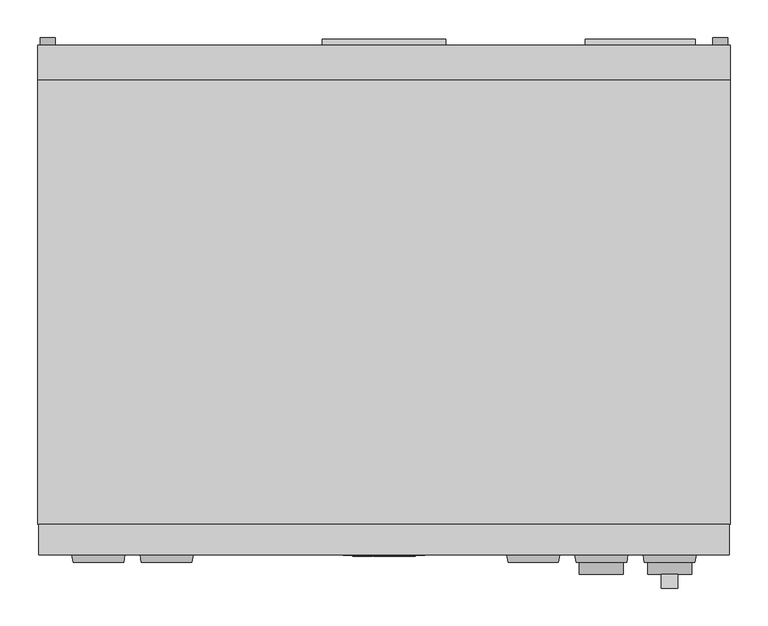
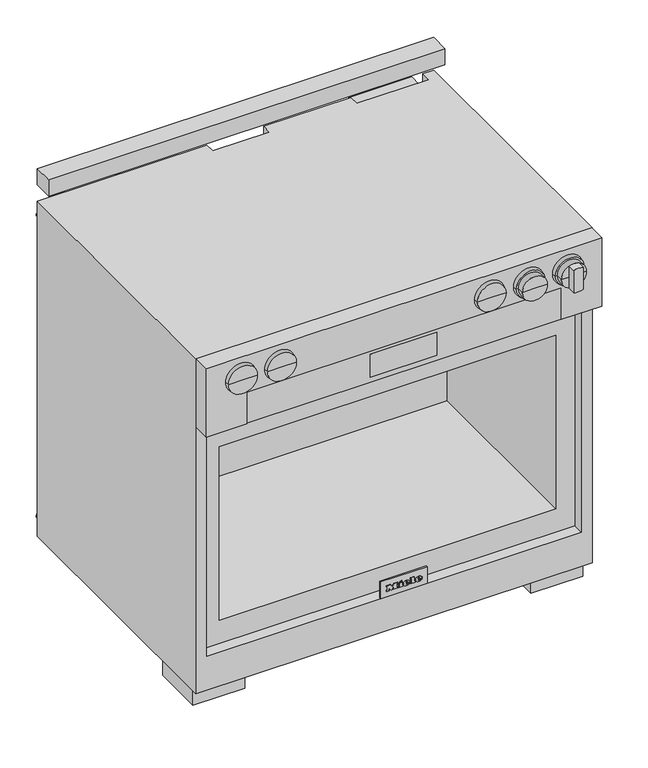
"""IFC4 building model written with IfcOpenShell, lengths in millimetres: proxy geometry, 11791600_USA_HR1935-3G_EDST-CLST : 25193581_USA_11791600_HR1935-3G_EDST-CLST."""

from ifc_helpers import new_model, si_unit, point, frame, frame_2d, origin, origin_with_axes, place, context, project, spatial, polyline, circle_curve, ellipse_curve, trimmed, segment, composite_curve, outline, extrude, faceted_brep, source, transform, mapped, element, save
from ifc_brep_helpers import plane_surface, cylinder_surface, revolved_surface, extruded_surface, advanced_brep


def specialty_equipment_0d907981(model_context):
    return source(origin(), model_context, "Body", "SolidModel", [
        advanced_brep(
        [(287.0, -683.0, 813.0), (316.0, -683.0, 813.0), (258.0, -683.0, 813.0), (258.0, -699.0, 813.0), (316.0, -699.0, 813.0), (287.0, -699.0, 813.0)],
        [
            (0, 1),
            (1, 2, circle_curve(frame((287.0, -683.0, 813.0), z_axis=(0.0, 1.0, 0.0), x_axis=(1.0, 0.0, 0.0)), 29.0)),
            (2, 0),
            (2, 1, circle_curve(frame((287.0, -683.0, 813.0), z_axis=(0.0, 1.0, 0.0), x_axis=(1.0, 0.0, 0.0)), 29.0)),
            (3, 4, circle_curve(frame((287.0, -699.0, 813.0), z_axis=(0.0, -1.0, 0.0), x_axis=(1.0, 0.0, 0.0)), 29.0)),
            (4, 5),
            (5, 3),
            (4, 3, circle_curve(frame((287.0, -699.0, 813.0), z_axis=(0.0, -1.0, 0.0), x_axis=(1.0, 0.0, 0.0)), 29.0)),
            (1, 4),
            (3, 2),
        ],
        [
            plane_surface(frame((287.0, -683.0, 813.0), z_axis=(0.0, 1.0, 0.0), x_axis=(1.0, 0.0, 0.0))),
            plane_surface(frame((287.0, -699.0, 813.0), z_axis=(0.0, -1.0, 0.0), x_axis=(1.0, 0.0, 0.0))),
            cylinder_surface(frame((287.0, 751.3738435, 813.0), z_axis=(0.0, 1.0, 0.0), x_axis=(1.0, 0.0, 0.0)), 29.0),
        ],
        [
            (0, [[1, 2, 3]]),
            (0, [[-3, 4, -1]]),
            (1, [[5, 6, 7]]),
            (1, [[8, -7, -6]]),
            (2, [[-2, 9, -5, 10]]),
            (2, [[-4, -10, -8, -9]]),
        ],
    ),
        extrude(outline(composite_curve([segment(polyline([(786.1671843, 388.0), (839.8328157, 388.0)]), True, "CONTINUOUS"), segment(trimmed(circle_curve(frame_2d((813.0, 377.0)), 29.0), [point((839.8328157, 388.0))], [point((839.8328157, 366.0))], False, "CARTESIAN"), True, "CONTINUOUS"), segment(polyline([(839.8328157, 366.0), (786.1671843, 366.0)]), True, "CONTINUOUS"), segment(trimmed(circle_curve(frame_2d((813.0, 377.0)), 29.0), [point((786.1671843, 366.0))], [point((786.1671843, 388.0))], False, "CARTESIAN"), True, "CONTINUOUS")], self_intersect=False)), frame((0.0, -717.0, 0.0), z_axis=(0.0, 1.0, 0.0), x_axis=(0.0, 0.0, 1.0)), (0.0, 0.0, 1.0), 18.0),
        advanced_brep(
        [(377.0, -683.0, 813.0), (406.0, -683.0, 813.0), (348.0, -683.0, 813.0), (348.0, -699.0, 813.0), (406.0, -699.0, 813.0), (377.0, -699.0, 813.0)],
        [
            (0, 1),
            (1, 2, circle_curve(frame((377.0, -683.0, 813.0), z_axis=(0.0, 1.0, 0.0), x_axis=(1.0, 0.0, 0.0)), 29.0)),
            (2, 0),
            (2, 1, circle_curve(frame((377.0, -683.0, 813.0), z_axis=(0.0, 1.0, 0.0), x_axis=(1.0, 0.0, 0.0)), 29.0)),
            (3, 4, circle_curve(frame((377.0, -699.0, 813.0), z_axis=(0.0, -1.0, 0.0), x_axis=(1.0, 0.0, 0.0)), 29.0)),
            (4, 5),
            (5, 3),
            (4, 3, circle_curve(frame((377.0, -699.0, 813.0), z_axis=(0.0, -1.0, 0.0), x_axis=(1.0, 0.0, 0.0)), 29.0)),
            (1, 4),
            (3, 2),
        ],
        [
            plane_surface(frame((377.0, -683.0, 813.0), z_axis=(0.0, 1.0, 0.0), x_axis=(1.0, 0.0, 0.0))),
            plane_surface(frame((377.0, -699.0, 813.0), z_axis=(0.0, -1.0, 0.0), x_axis=(1.0, 0.0, 0.0))),
            cylinder_surface(frame((377.0, 751.3738435, 813.0), z_axis=(0.0, 1.0, 0.0), x_axis=(1.0, 0.0, 0.0)), 29.0),
        ],
        [
            (0, [[1, 2, 3]]),
            (0, [[-3, 4, -1]]),
            (1, [[5, 6, 7]]),
            (1, [[8, -7, -6]]),
            (2, [[-2, 9, -5, 10]]),
            (2, [[-4, -10, -8, -9]]),
        ],
    ),
        extrude(outline(polyline([(76.5, -671.7), (-76.5, -671.7), (-76.5, -670.7), (76.5, -670.7), (76.5, -671.7)])), frame((0.0, 0.0, 707.0), z_axis=(0.0, 0.0, 1.0), x_axis=(1.0, 0.0, 0.0)), (0.0, 0.0, 1.0), 56.0),
        extrude(outline(polyline([(772.0, 363.0), (772.0, -363.0), (695.0, -363.0), (695.0, 363.0), (772.0, 363.0)]), holes=[polyline([(763.0, 76.5), (707.0, 76.5), (707.0, -76.5), (763.0, -76.5), (763.0, 76.5)])]), frame((0.0, -671.7, 0.0), z_axis=(0.0, 1.0, 0.0), x_axis=(0.0, 0.0, 1.0)), (0.0, 0.0, 1.0), 5.0),
        faceted_brep([(456.0, -673.0, 862.0), (-456.0, -673.0, 862.0), (-456.0, -673.0, 695.0), (-363.0, -673.0, 695.0), (-363.0, -673.0, 772.0), (363.0, -673.0, 772.0), (363.0, -673.0, 695.0), (456.0, -673.0, 695.0), (456.0, -633.0, 862.0), (456.0, -633.0, 695.0), (-456.0, -633.0, 695.0), (-456.0, -633.0, 862.0), (363.0, -666.7, 695.0), (-363.0, -666.7, 695.0), (363.0, -666.7, 772.0), (-363.0, -666.7, 772.0)], [[[0, 1, 2, 3, 4, 5, 6, 7]], [[8, 9, 10, 11]], [[0, 7, 9, 8]], [[10, 9, 7, 6, 12, 13, 3, 2]], [[2, 1, 11, 10]], [[1, 0, 8, 11]], [[14, 15, 13, 12]], [[14, 12, 6, 5]], [[13, 15, 4, 3]], [[15, 14, 5, 4]]]),
        advanced_brep(
        [(-410.2367302, -683.0, 813.0), (-343.7632698, -683.0, 813.0), (-377.0, -683.0, 813.0), (-412.0, -673.0, 813.0), (-342.0, -673.0, 813.0), (-377.0, -673.0, 813.0)],
        [
            (0, 1, circle_curve(frame((-377.0, -683.0, 813.0), z_axis=(0.0, -1.0, 0.0), x_axis=(1.0, 0.0, 0.0)), 33.2367302)),
            (1, 2),
            (2, 0),
            (1, 0, circle_curve(frame((-377.0, -683.0, 813.0), z_axis=(0.0, -1.0, 0.0), x_axis=(1.0, 0.0, 0.0)), 33.2367302)),
            (3, 4, circle_curve(frame((-377.0, -673.0, 813.0), z_axis=(0.0, -1.0, 0.0), x_axis=(1.0, 0.0, 0.0)), 35.0)),
            (4, 1),
            (0, 3),
            (4, 3, circle_curve(frame((-377.0, -673.0, 813.0), z_axis=(0.0, -1.0, 0.0), x_axis=(1.0, 0.0, 0.0)), 35.0)),
            (5, 4),
            (3, 5),
        ],
        [
            plane_surface(frame((-377.0, -683.0, 813.0), z_axis=(0.0, -1.0, 0.0), x_axis=(1.0, 0.0, 0.0))),
            revolved_surface(polyline([(-343.7632698, -683.0, 813.0), (-342.0, -673.0, 813.0)]), (-377.0, 751.3738435, 813.0), (0.0, 1.0, 0.0)),
            plane_surface(frame((-377.0, -673.0, 813.0), z_axis=(0.0, 1.0, 0.0), x_axis=(1.0, 0.0, 0.0))),
        ],
        [
            (0, [[1, 2, 3]]),
            (0, [[4, -3, -2]]),
            (1, [[5, 6, -1, 7]]),
            (1, [[8, -7, -4, -6]]),
            (2, [[9, -5, 10]]),
            (2, [[-10, -8, -9]]),
        ],
    ),
        advanced_brep(
        [(-320.2367302, -683.0, 813.0), (-253.7632698, -683.0, 813.0), (-287.0, -683.0, 813.0), (-322.0, -673.0, 813.0), (-252.0, -673.0, 813.0), (-287.0, -673.0, 813.0)],
        [
            (0, 1, circle_curve(frame((-287.0, -683.0, 813.0), z_axis=(0.0, -1.0, 0.0), x_axis=(1.0, 0.0, 0.0)), 33.2367302)),
            (1, 2),
            (2, 0),
            (1, 0, circle_curve(frame((-287.0, -683.0, 813.0), z_axis=(0.0, -1.0, 0.0), x_axis=(1.0, 0.0, 0.0)), 33.2367302)),
            (3, 4, circle_curve(frame((-287.0, -673.0, 813.0), z_axis=(0.0, -1.0, 0.0), x_axis=(1.0, 0.0, 0.0)), 35.0)),
            (4, 1),
            (0, 3),
            (4, 3, circle_curve(frame((-287.0, -673.0, 813.0), z_axis=(0.0, -1.0, 0.0), x_axis=(1.0, 0.0, 0.0)), 35.0)),
            (5, 4),
            (3, 5),
        ],
        [
            plane_surface(frame((-287.0, -683.0, 813.0), z_axis=(0.0, -1.0, 0.0), x_axis=(1.0, 0.0, 0.0))),
            revolved_surface(polyline([(-253.7632698, -683.0, 813.0), (-252.0, -673.0, 813.0)]), (-287.0, 751.3738435, 813.0), (0.0, 1.0, 0.0)),
            plane_surface(frame((-287.0, -673.0, 813.0), z_axis=(0.0, 1.0, 0.0), x_axis=(1.0, 0.0, 0.0))),
        ],
        [
            (0, [[1, 2, 3]]),
            (0, [[4, -3, -2]]),
            (1, [[5, 6, -1, 7]]),
            (1, [[8, -7, -4, -6]]),
            (2, [[9, -5, 10]]),
            (2, [[-10, -8, -9]]),
        ],
    ),
        advanced_brep(
        [(163.7632698, -683.0, 813.0), (230.2367302, -683.0, 813.0), (197.0, -683.0, 813.0), (162.0, -673.0, 813.0), (232.0, -673.0, 813.0), (197.0, -673.0, 813.0)],
        [
            (0, 1, circle_curve(frame((197.0, -683.0, 813.0), z_axis=(0.0, -1.0, 0.0), x_axis=(1.0, 0.0, 0.0)), 33.2367302)),
            (1, 2),
            (2, 0),
            (1, 0, circle_curve(frame((197.0, -683.0, 813.0), z_axis=(0.0, -1.0, 0.0), x_axis=(1.0, 0.0, 0.0)), 33.2367302)),
            (3, 4, circle_curve(frame((197.0, -673.0, 813.0), z_axis=(0.0, -1.0, 0.0), x_axis=(1.0, 0.0, 0.0)), 35.0)),
            (4, 1),
            (0, 3),
            (4, 3, circle_curve(frame((197.0, -673.0, 813.0), z_axis=(0.0, -1.0, 0.0), x_axis=(1.0, 0.0, 0.0)), 35.0)),
            (5, 4),
            (3, 5),
        ],
        [
            plane_surface(frame((197.0, -683.0, 813.0), z_axis=(0.0, -1.0, 0.0), x_axis=(1.0, 0.0, 0.0))),
            revolved_surface(polyline([(230.2367302, -683.0, 813.0), (232.0, -673.0, 813.0)]), (197.0, 751.3738435, 813.0), (0.0, 1.0, 0.0)),
            plane_surface(frame((197.0, -673.0, 813.0), z_axis=(0.0, 1.0, 0.0), x_axis=(1.0, 0.0, 0.0))),
        ],
        [
            (0, [[1, 2, 3]]),
            (0, [[4, -3, -2]]),
            (1, [[5, 6, -1, 7]]),
            (1, [[8, -7, -4, -6]]),
            (2, [[9, -5, 10]]),
            (2, [[-10, -8, -9]]),
        ],
    ),
        advanced_brep(
        [(253.7632698, -683.0, 813.0), (320.2367302, -683.0, 813.0), (287.0, -683.0, 813.0), (252.0, -673.0, 813.0), (322.0, -673.0, 813.0), (287.0, -673.0, 813.0)],
        [
            (0, 1, circle_curve(frame((287.0, -683.0, 813.0), z_axis=(0.0, -1.0, 0.0), x_axis=(1.0, 0.0, 0.0)), 33.2367302)),
            (1, 2),
            (2, 0),
            (1, 0, circle_curve(frame((287.0, -683.0, 813.0), z_axis=(0.0, -1.0, 0.0), x_axis=(1.0, 0.0, 0.0)), 33.2367302)),
            (3, 4, circle_curve(frame((287.0, -673.0, 813.0), z_axis=(0.0, -1.0, 0.0), x_axis=(1.0, 0.0, 0.0)), 35.0)),
            (4, 1),
            (0, 3),
            (4, 3, circle_curve(frame((287.0, -673.0, 813.0), z_axis=(0.0, -1.0, 0.0), x_axis=(1.0, 0.0, 0.0)), 35.0)),
            (5, 4),
            (3, 5),
        ],
        [
            plane_surface(frame((287.0, -683.0, 813.0), z_axis=(0.0, -1.0, 0.0), x_axis=(1.0, 0.0, 0.0))),
            revolved_surface(polyline([(320.2367302, -683.0, 813.0), (322.0, -673.0, 813.0)]), (287.0, 751.3738435, 813.0), (0.0, 1.0, 0.0)),
            plane_surface(frame((287.0, -673.0, 813.0), z_axis=(0.0, 1.0, 0.0), x_axis=(1.0, 0.0, 0.0))),
        ],
        [
            (0, [[1, 2, 3]]),
            (0, [[4, -3, -2]]),
            (1, [[5, 6, -1, 7]]),
            (1, [[8, -7, -4, -6]]),
            (2, [[9, -5, 10]]),
            (2, [[-10, -8, -9]]),
        ],
    ),
        advanced_brep(
        [(343.7632698, -683.0, 813.0), (410.2367302, -683.0, 813.0), (377.0, -683.0, 813.0), (342.0, -673.0, 813.0), (412.0, -673.0, 813.0), (377.0, -673.0, 813.0)],
        [
            (0, 1, circle_curve(frame((377.0, -683.0, 813.0), z_axis=(0.0, -1.0, 0.0), x_axis=(1.0, 0.0, 0.0)), 33.2367302)),
            (1, 2),
            (2, 0),
            (1, 0, circle_curve(frame((377.0, -683.0, 813.0), z_axis=(0.0, -1.0, 0.0), x_axis=(1.0, 0.0, 0.0)), 33.2367302)),
            (3, 4, circle_curve(frame((377.0, -673.0, 813.0), z_axis=(0.0, -1.0, 0.0), x_axis=(1.0, 0.0, 0.0)), 35.0)),
            (4, 1),
            (0, 3),
            (4, 3, circle_curve(frame((377.0, -673.0, 813.0), z_axis=(0.0, -1.0, 0.0), x_axis=(1.0, 0.0, 0.0)), 35.0)),
            (5, 4),
            (3, 5),
        ],
        [
            plane_surface(frame((377.0, -683.0, 813.0), z_axis=(0.0, -1.0, 0.0), x_axis=(1.0, 0.0, 0.0))),
            revolved_surface(polyline([(410.2367302, -683.0, 813.0), (412.0, -673.0, 813.0)]), (377.0, 751.3738435, 813.0), (0.0, 1.0, 0.0)),
            plane_surface(frame((377.0, -673.0, 813.0), z_axis=(0.0, 1.0, 0.0), x_axis=(1.0, 0.0, 0.0))),
        ],
        [
            (0, [[1, 2, 3]]),
            (0, [[4, -3, -2]]),
            (1, [[5, 6, -1, 7]]),
            (1, [[8, -7, -4, -6]]),
            (2, [[9, -5, 10]]),
            (2, [[-10, -8, -9]]),
        ],
    ),
        extrude(outline(composite_curve([segment(trimmed(circle_curve(frame_2d((822.0, 444.0)), 10.0), [point((822.0, 454.0))], [point((822.0, 434.0))], False, "CARTESIAN"), True, "CONTINUOUS"), segment(trimmed(circle_curve(frame_2d((822.0, 444.0)), 10.0), [point((822.0, 434.0))], [point((822.0, 454.0))], False, "CARTESIAN"), True, "CONTINUOUS")], self_intersect=False)), frame((0.0, 0.0, 0.0), z_axis=(0.0, 1.0, 0.0), x_axis=(0.0, 0.0, 1.0)), (0.0, 0.0, 1.0), 10.0),
        extrude(outline(composite_curve([segment(trimmed(circle_curve(frame_2d((87.0, 444.0)), 10.0), [point((87.0, 454.0))], [point((87.0, 434.0))], False, "CARTESIAN"), True, "CONTINUOUS"), segment(trimmed(circle_curve(frame_2d((87.0, 444.0)), 10.0), [point((87.0, 434.0))], [point((87.0, 454.0))], False, "CARTESIAN"), True, "CONTINUOUS")], self_intersect=False)), frame((0.0, 0.0, 0.0), z_axis=(0.0, 1.0, 0.0), x_axis=(0.0, 0.0, 1.0)), (0.0, 0.0, 1.0), 10.0),
        extrude(outline(composite_curve([segment(trimmed(circle_curve(frame_2d((822.0, -444.0)), 10.0), [point((822.0, -434.0))], [point((822.0, -454.0))], False, "CARTESIAN"), True, "CONTINUOUS"), segment(trimmed(circle_curve(frame_2d((822.0, -444.0)), 10.0), [point((822.0, -454.0))], [point((822.0, -434.0))], False, "CARTESIAN"), True, "CONTINUOUS")], self_intersect=False)), frame((0.0, 0.0, 0.0), z_axis=(0.0, 1.0, 0.0), x_axis=(0.0, 0.0, 1.0)), (0.0, 0.0, 1.0), 10.0),
        extrude(outline(composite_curve([segment(trimmed(circle_curve(frame_2d((87.0, -444.0)), 10.0), [point((87.0, -434.0))], [point((87.0, -454.0))], False, "CARTESIAN"), True, "CONTINUOUS"), segment(trimmed(circle_curve(frame_2d((87.0, -444.0)), 10.0), [point((87.0, -454.0))], [point((87.0, -434.0))], False, "CARTESIAN"), True, "CONTINUOUS")], self_intersect=False)), frame((0.0, 0.0, 0.0), z_axis=(0.0, 1.0, 0.0), x_axis=(0.0, 0.0, 1.0)), (0.0, 0.0, 1.0), 10.0),
        extrude(outline(polyline([(266.0, 8.0), (411.0, 8.0), (411.0, -23.0), (266.0, -23.0), (266.0, 8.0)])), frame((0.0, 0.0, 742.0), z_axis=(0.0, 0.0, 1.0), x_axis=(1.0, 0.0, 0.0)), (0.0, 0.0, 1.0), 115.0),
        extrude(outline(polyline([(-81.5, 8.0), (81.5, 8.0), (81.5, 0.0), (-81.5, 0.0), (-81.5, 8.0)])), frame((0.0, 0.0, 559.0), z_axis=(0.0, 0.0, 1.0), x_axis=(1.0, 0.0, 0.0)), (0.0, 0.0, 1.0), 237.0),
        extrude(outline(composite_curve([segment(trimmed(circle_curve(frame_2d((-152.0, 39.6862697)), 39.6862697), [point((-112.6710759, 45.0))], [point((-191.3289241, 45.0))], False, "CARTESIAN"), True, "CONTINUOUS"), segment(polyline([(-191.3289241, 45.0), (-112.6710759, 45.0)]), True, "CONTINUOUS")], self_intersect=False)), frame((282.0, 0.0, 0.0), z_axis=(1.0, 0.0, 0.0), x_axis=(0.0, 1.0, 0.0)), (0.0, 0.0, 1.0), 28.0),
        extrude(outline(composite_curve([segment(polyline([(-366.0009008, -40.0), (-367.2635363, -40.0), (-367.0191787, -38.9415709), (-366.8778726, -34.1117735)]), True, "CONTINUOUS"), segment(trimmed(circle_curve(frame_2d((-365.387549, -34.1553762)), 1.4909613), [point((-366.8778726, -34.1117735))], [point((-365.6381402, -32.6856246))], False, "CARTESIAN"), True, "CONTINUOUS"), segment(trimmed(circle_curve(frame_2d((-364.1175682, -37.7832301)), 5.3195602), [point((-365.6381402, -32.6856246))], [point((-362.440667, -32.7348914))], False, "CARTESIAN"), True, "CONTINUOUS"), segment(polyline([(-362.440667, -32.7348914), (-361.3643767, -33.4338425), (-360.8177226, -34.6616478), (-362.0710839, -34.8155412), (-362.6628147, -33.9704619)]), True, "CONTINUOUS"), segment(trimmed(circle_curve(frame_2d((-363.889909, -36.6278559)), 2.9270297), [point((-362.6628147, -33.9704619))], [point((-365.335883, -34.0829271))], True, "CARTESIAN"), True, "CONTINUOUS"), segment(polyline([(-365.335883, -34.0829271), (-365.6819155, -35.289686), (-362.4250607, -35.9227545)]), True, "CONTINUOUS"), segment(trimmed(circle_curve(frame_2d((-362.8373847, -38.0439776)), 2.1609254), [point((-362.4250607, -35.9227545))], [point((-361.2872437, -39.5495212))], False, "CARTESIAN"), True, "CONTINUOUS"), segment(trimmed(circle_curve(frame_2d((-363.2230106, -36.6941434)), 3.4496922), [point((-361.2872437, -39.5495212))], [point((-364.4810512, -39.9062626))], False, "CARTESIAN"), True, "CONTINUOUS"), segment(polyline([(-364.4810512, -39.9062626), (-365.6943945, -39.0566705), (-366.0009008, -40.0)]), True, "CONTINUOUS")], self_intersect=False), holes=[composite_curve([segment(polyline([(-365.6808047, -36.7241112), (-365.4778117, -37.8753414), (-364.6808418, -38.5929363), (-363.3846505, -38.8921857)]), True, "CONTINUOUS"), segment(trimmed(circle_curve(frame_2d((-363.1641539, -37.9371101)), 0.980198), [point((-363.3846505, -38.8921857))], [point((-362.5826105, -37.148063))], True, "CARTESIAN"), True, "CONTINUOUS"), segment(polyline([(-362.5826105, -37.148063), (-363.683896, -36.9339948), (-365.6808047, -36.7241112)]), True, "CONTINUOUS")], self_intersect=False)]), frame((0.0, 0.0, 753.0), z_axis=(0.0, 0.0, 1.0), x_axis=(1.0, 0.0, 0.0)), (0.0, 0.0, 1.0), 1.0),
        extrude(outline(composite_curve([segment(polyline([(-369.4581842, -37.6489066), (-368.202206, -37.8031213), (-369.1593436, -39.5606642)]), True, "CONTINUOUS"), segment(trimmed(circle_curve(frame_2d((-371.3057471, -36.6354063)), 3.6282478), [point((-369.1593436, -39.5606642))], [point((-372.8962663, -39.8964538))], False, "CARTESIAN"), True, "CONTINUOUS"), segment(trimmed(circle_curve(frame_2d((-371.7731504, -37.593725)), 2.5620205), [point((-372.8962663, -39.8964538))], [point((-374.32893, -37.7724425))], False, "CARTESIAN"), True, "CONTINUOUS"), segment(trimmed(circle_curve(frame_2d((-372.617737, -37.6527843)), 1.7153715), [point((-374.32893, -37.7724425))], [point((-373.147816, -36.021369))], False, "CARTESIAN"), True, "CONTINUOUS"), segment(polyline([(-373.147816, -36.021369), (-371.3069947, -35.4232499), (-369.987673, -33.9770867)]), True, "CONTINUOUS"), segment(trimmed(circle_curve(frame_2d((-371.1408399, -36.351197)), 2.6393548), [point((-369.987673, -33.9770867))], [point((-372.2940069, -33.9770867))], True, "CARTESIAN"), True, "CONTINUOUS"), segment(polyline([(-372.2940069, -33.9770867), (-372.7553884, -34.6611129), (-374.0084996, -34.5072502), (-373.5756304, -33.3795875)]), True, "CONTINUOUS"), segment(trimmed(circle_curve(frame_2d((-370.9527143, -36.6576461)), 4.1982564), [point((-373.5756304, -33.3795875))], [point((-371.0505395, -32.4605295))], False, "CARTESIAN"), True, "CONTINUOUS"), segment(trimmed(circle_curve(frame_2d((-370.9805679, -35.4626064)), 3.0028922), [point((-371.0505395, -32.4605295))], [point((-368.5718203, -33.6694816))], False, "CARTESIAN"), True, "CONTINUOUS"), segment(trimmed(circle_curve(frame_2d((-370.4380028, -34.5301363)), 2.0550823), [point((-368.5718203, -33.6694816))], [point((-369.4341096, -36.323335))], False, "CARTESIAN"), True, "CONTINUOUS"), segment(polyline([(-369.4341096, -36.323335), (-371.3494535, -36.9828408), (-373.0597255, -37.9076387), (-372.6768706, -38.6156702)]), True, "CONTINUOUS"), segment(trimmed(circle_curve(frame_2d((-371.3695779, -35.6018954)), 3.2850956), [point((-372.6768706, -38.6156702))], [point((-370.0622852, -38.6156702))], True, "CARTESIAN"), True, "CONTINUOUS"), segment(polyline([(-370.0622852, -38.6156702), (-369.4581842, -37.6489066)]), True, "CONTINUOUS")], self_intersect=False)), frame((0.0, 0.0, 753.0), z_axis=(0.0, 0.0, 1.0), x_axis=(1.0, 0.0, 0.0)), (0.0, 0.0, 1.0), 1.0),
        extrude(outline(composite_curve([segment(polyline([(-359.0941465, -34.8216074), (-355.0193946, -34.8216074), (-355.0193946, -36.0727848), (-357.8300756, -36.0727848), (-357.8300756, -37.8953779), (-356.5547934, -38.5734575), (-354.8554891, -38.8730907)]), True, "CONTINUOUS"), segment(trimmed(circle_curve(frame_2d((-354.7763582, -35.1835188)), 3.6904203), [point((-354.8554891, -38.8730907))], [point((-351.0917956, -34.975672))], True, "CARTESIAN"), True, "CONTINUOUS"), segment(trimmed(circle_curve(frame_2d((-355.2742118, -35.2116028)), 4.1890654), [point((-351.0917956, -34.975672))], [point((-354.8924604, -31.0399683))], True, "CARTESIAN"), True, "CONTINUOUS"), segment(trimmed(circle_curve(frame_2d((-355.1434541, -33.7827322)), 2.7542243), [point((-354.8924604, -31.0399683))], [point((-357.2311401, -31.9862582))], True, "CARTESIAN"), True, "CONTINUOUS"), segment(polyline([(-357.2311401, -31.9862582), (-357.7913432, -33.1348449), (-358.9545959, -32.808521), (-358.2222817, -31.1459412)]), True, "CONTINUOUS"), segment(trimmed(circle_curve(frame_2d((-355.0056573, -34.3038983)), 4.5077007), [point((-358.2222817, -31.1459412))], [point((-354.8478593, -29.7989604))], False, "CARTESIAN"), True, "CONTINUOUS"), segment(trimmed(circle_curve(frame_2d((-355.0297107, -35.0029797)), 5.2071956), [point((-354.8478593, -29.7989604))], [point((-349.8225151, -35.0029797))], False, "CARTESIAN"), True, "CONTINUOUS"), segment(trimmed(circle_curve(frame_2d((-355.0187023, -34.9634409)), 5.1963376), [point((-349.8225151, -35.0029797))], [point((-355.0187023, -40.1597785))], False, "CARTESIAN"), True, "CONTINUOUS"), segment(polyline([(-355.0187023, -40.1597785), (-357.0821579, -39.7823822), (-359.0941465, -38.5734575), (-359.0941465, -34.8216074)]), True, "CONTINUOUS")], self_intersect=False)), frame((0.0, 0.0, 753.0), z_axis=(0.0, 0.0, 1.0), x_axis=(1.0, 0.0, 0.0)), (0.0, 0.0, 1.0), 1.0),
        extrude(outline(polyline([(246.4261097, -48.2846028), (239.1553153, -48.2846028), (239.1553153, -47.0259878), (245.1324687, -47.0259878), (245.1324687, -44.0398896), (239.4699511, -44.0398896), (239.4699511, -42.7868997), (245.1324687, -42.7868997), (245.1324687, -39.484481), (239.0234692, -39.484481), (239.0234692, -38.223126), (246.4261097, -38.223126), (246.4261097, -48.2846028)])), frame((0.0, 0.0, 101.0), z_axis=(0.0, 0.0, 1.0), x_axis=(1.0, 0.0, 0.0)), (0.0, 0.0, 1.0), 1.0),
        extrude(outline(polyline([(237.0939455, -48.2781045), (230.9083542, -48.2781045), (230.9083542, -47.0259878), (235.9083542, -47.0259878), (235.9083542, -38.223126), (237.0939455, -38.223126), (237.0939455, -48.2781045)])), frame((0.0, 0.0, 101.0), z_axis=(0.0, 0.0, 1.0), x_axis=(1.0, 0.0, 0.0)), (0.0, 0.0, 1.0), 1.0),
        extrude(outline(composite_curve([segment(trimmed(circle_curve(frame_2d((239.0, -44.0)), 7.5), [point((239.0, -51.5))], [point((239.0, -36.5))], False, "CARTESIAN"), True, "CONTINUOUS"), segment(trimmed(circle_curve(frame_2d((239.0, -44.0)), 7.5), [point((239.0, -36.5))], [point((239.0, -51.5))], False, "CARTESIAN"), True, "CONTINUOUS")], self_intersect=False)), frame((0.0, 0.0, 102.0), z_axis=(0.0, 0.0, 1.0), x_axis=(1.0, 0.0, 0.0)), (0.0, 0.0, 1.0), 30.0),
        extrude(outline(composite_curve([segment(trimmed(circle_curve(frame_2d((-362.0, -35.0)), 7.5), [point((-369.5, -35.0))], [point((-354.5, -35.0))], False, "CARTESIAN"), True, "CONTINUOUS"), segment(trimmed(circle_curve(frame_2d((-362.0, -35.0)), 7.5), [point((-354.5, -35.0))], [point((-369.5, -35.0))], False, "CARTESIAN"), True, "CONTINUOUS")], self_intersect=False)), frame((0.0, 0.0, 754.0), z_axis=(0.0, 0.0, 1.0), x_axis=(1.0, 0.0, 0.0)), (0.0, 0.0, 1.0), 30.0),
        extrude(outline(polyline([(742.9900117, -299.5376107), (753.0405487, -296.8032463), (753.0405487, -298.1010309), (744.3952189, -300.1941056), (753.0411296, -302.6946617), (753.0411296, -304.5615338), (744.4117226, -307.0845612), (753.0419182, -309.165026), (753.0419182, -310.4626989), (742.9984871, -307.7244126), (742.9984871, -306.3735976), (751.8308623, -303.6286268), (742.9900117, -301.0716905), (742.9900117, -299.5376107)])), frame((0.0, -36.0, 0.0), z_axis=(0.0, 1.0, 0.0), x_axis=(0.0, 0.0, 1.0)), (0.0, 0.0, 1.0), 1.0),
        extrude(outline(polyline([(743.0, -288.4829639), (753.0509015, -288.4829639), (753.0509015, -289.7409127), (748.1386151, -289.7409127), (753.0475587, -294.8904554), (753.0475587, -296.6455728), (748.9164775, -292.3179994), (743.0, -296.8019347), (743.0, -295.2701694), (748.0664133, -291.4304743), (746.4465471, -289.7392234), (743.0, -289.7392234), (743.0, -288.4829639)])), frame((0.0, -36.0, 0.0), z_axis=(0.0, 1.0, 0.0), x_axis=(0.0, 0.0, 1.0)), (0.0, 0.0, 1.0), 1.0),
        extrude(outline(composite_curve([segment(trimmed(circle_curve(frame_2d((748.0, -299.0)), 7.5), [point((748.0, -291.5))], [point((748.0, -306.5))], False, "CARTESIAN"), True, "CONTINUOUS"), segment(trimmed(circle_curve(frame_2d((748.0, -299.0)), 7.5), [point((748.0, -306.5))], [point((748.0, -291.5))], False, "CARTESIAN"), True, "CONTINUOUS")], self_intersect=False)), frame((0.0, -66.0, 0.0), z_axis=(0.0, 1.0, 0.0), x_axis=(0.0, 0.0, 1.0)), (0.0, 0.0, 1.0), 30.0),
        faceted_brep([(-457.0, 0.0, 862.0), (-457.0, -633.0, 862.0), (457.0, -633.0, 862.0), (457.0, 0.0, 862.0), (432.0, 0.0, 862.0), (432.0, -23.0, 862.0), (266.0, -23.0, 862.0), (266.0, 0.0, 862.0), (65.0, 0.0, 862.0), (65.0, -23.0, 862.0), (-66.0, -23.0, 862.0), (-66.0, 0.0, 862.0), (457.0, 0.0, 45.0), (457.0, -633.0, 45.0), (-457.0, -633.0, 45.0), (-457.0, 0.0, 45.0), (-432.0, 0.0, 45.0), (-432.0, -75.0, 45.0), (432.0, -75.0, 45.0), (432.0, 0.0, 45.0), (266.0, 0.0, 132.0), (65.0, 0.0, 132.0), (-66.0, 0.0, 132.0), (-270.0, 0.0, 132.0), (-270.0, 0.0, 784.0), (-411.0, 0.0, 784.0), (-411.0, 0.0, 132.0), (-432.0, 0.0, 132.0), (432.0, -633.0, 695.0), (432.0, -633.0, 128.0), (-432.0, -633.0, 128.0), (-432.0, -633.0, 695.0), (432.0, -608.0, 695.0), (-432.0, -608.0, 695.0), (-432.0, -608.0, 128.0), (432.0, -608.0, 128.0), (388.0, -608.0, 608.0), (388.0, -608.0, 185.0), (-388.0, -608.0, 185.0), (-388.0, -608.0, 608.0), (388.0, -173.0, 608.0), (-388.0, -173.0, 608.0), (-388.0, -173.0, 185.0), (388.0, -173.0, 185.0), (432.0, -23.0, 132.0), (266.0, -23.0, 132.0), (65.0, -23.0, 132.0), (-66.0, -23.0, 132.0), (432.0, -75.0, 132.0), (-411.0, -69.0, 784.0), (-270.0, -69.0, 784.0), (-270.0, -69.0, 132.0), (-411.0, -69.0, 132.0), (-432.0, -75.0, 132.0)], [[[0, 1, 2, 3, 4, 5, 6, 7, 8, 9, 10, 11]], [[12, 13, 14, 15, 16, 17, 18, 19]], [[8, 7, 20, 21]], [[3, 12, 19, 4]], [[15, 0, 11, 22, 23, 24, 25, 26, 27, 16]], [[1, 0, 15, 14]], [[2, 1, 14, 13], [28, 29, 30, 31]], [[3, 2, 13, 12]], [[32, 33, 34, 35], [36, 37, 38, 39]], [[32, 35, 29, 28]], [[35, 34, 30, 29]], [[34, 33, 31, 30]], [[33, 32, 28, 31]], [[40, 41, 42, 43]], [[40, 43, 37, 36]], [[43, 42, 38, 37]], [[42, 41, 39, 38]], [[41, 40, 36, 39]], [[6, 5, 44, 45]], [[10, 9, 46, 47]], [[9, 8, 21, 46]], [[11, 10, 47, 22]], [[5, 4, 19, 18, 48, 44]], [[7, 6, 45, 20]], [[49, 50, 51, 52]], [[50, 49, 25, 24]], [[50, 24, 23, 51]], [[25, 49, 52, 26]], [[53, 48, 18, 17]], [[27, 53, 17, 16]], [[48, 53, 27, 26, 52, 51, 23, 22, 47, 46, 21, 20, 45, 44]]]),
        extrude(outline(composite_curve([segment(trimmed(circle_curve(frame_2d((-152.0, 39.6862697)), 39.6862697), [point((-112.6710759, 45.0))], [point((-191.3289241, 45.0))], False, "CARTESIAN"), True, "CONTINUOUS"), segment(polyline([(-191.3289241, 45.0), (-112.6710759, 45.0)]), True, "CONTINUOUS")], self_intersect=False)), frame((-310.0, 0.0, 0.0), z_axis=(1.0, 0.0, 0.0), x_axis=(0.0, 1.0, 0.0)), (0.0, 0.0, 1.0), 28.0),
        extrude(outline(polyline([(-330.0, -489.0), (-330.0, -609.0), (-450.0, -609.0), (-450.0, -489.0), (-330.0, -489.0)])), origin_with_axes(), (0.0, 0.0, 1.0), 45.0),
        extrude(outline(polyline([(450.0, -489.0), (450.0, -609.0), (330.0, -609.0), (330.0, -489.0), (450.0, -489.0)])), origin_with_axes(), (0.0, 0.0, 1.0), 45.0),
        advanced_brep(
        [(32.17, -675.0, 177.1995), (32.17, -675.0, 178.563), (41.2015, -675.0, 178.563), (25.4875, -675.0, 178.563), (29.2, -675.0, 174.0), (40.972, -675.0, 177.1995), (36.895, -675.0, 177.1995), (33.682, -675.0, 175.6875), (32.17, -675.0, 180.291), (32.17, -675.0, 181.7625), (34.4785, -675.0, 181.7625), (34.4785, -675.0, 180.291), (32.17, -674.0, 177.1995), (33.682, -674.0, 175.6875), (36.895, -674.0, 177.1995), (40.972, -674.0, 177.1995), (29.2, -674.0, 174.0), (25.4875, -674.0, 178.563), (41.2015, -674.0, 178.563), (32.17, -674.0, 178.563), (32.17, -674.0, 180.291), (34.4785, -674.0, 180.291), (34.4785, -674.0, 181.7625), (32.17, -674.0, 181.7625)],
        [
            (0, 1),
            (1, 2),
            (2, 3, ellipse_curve(frame((33.3445, -675.0, 178.563), z_axis=(0.0, -1.0, 0.0), x_axis=(-1.0, 0.0, 0.0)), 7.857, 6.4935)),
            (3, 4, circle_curve(frame((30.7120736, -675.0, 179.022), z_axis=(0.0, -1.0, 0.0), x_axis=(0.0, 0.0, -1.0)), 5.2446974)),
            (4, 5, circle_curve(frame((33.1872142, -675.0, 182.586), z_axis=(0.0, -1.0, 0.0), x_axis=(0.0, 0.0, -1.0)), 9.46664)),
            (5, 6),
            (6, 7, circle_curve(frame((34.3419118, -675.0, 178.455), z_axis=(0.0, 1.0, 0.0), x_axis=(0.0, 0.0, -1.0)), 2.8450905)),
            (7, 0, circle_curve(frame((33.682, -675.0, 177.1995), z_axis=(0.0, 1.0, 0.0), x_axis=(0.0, 0.0, -1.0)), 1.512)),
            (8, 9),
            (9, 10, circle_curve(frame((33.32425, -675.0, 181.7625), z_axis=(0.0, 1.0, 0.0), x_axis=(0.0, 0.0, -1.0)), 1.15425)),
            (10, 11),
            (11, 8),
            (12, 13, circle_curve(frame((33.682, -674.0, 177.1995), z_axis=(0.0, -1.0, 0.0), x_axis=(0.0, 0.0, -1.0)), 1.512)),
            (13, 14, circle_curve(frame((34.3419118, -674.0, 178.455), z_axis=(0.0, -1.0, 0.0), x_axis=(0.0, 0.0, -1.0)), 2.8450905)),
            (14, 15),
            (15, 16, circle_curve(frame((33.1872142, -674.0, 182.586), z_axis=(0.0, 1.0, 0.0), x_axis=(0.0, 0.0, -1.0)), 9.46664)),
            (16, 17, circle_curve(frame((30.7120736, -674.0, 179.022), z_axis=(0.0, 1.0, 0.0), x_axis=(0.0, 0.0, -1.0)), 5.2446974)),
            (17, 18, ellipse_curve(frame((33.3445, -674.0, 178.563), z_axis=(0.0, 1.0, 0.0), x_axis=(-1.0, 0.0, 0.0)), 7.857, 6.4935)),
            (18, 19),
            (19, 12),
            (20, 21),
            (21, 22),
            (22, 23, circle_curve(frame((33.32425, -674.0, 181.7625), z_axis=(0.0, -1.0, 0.0), x_axis=(0.0, 0.0, -1.0)), 1.15425)),
            (23, 20),
            (0, 12),
            (19, 1),
            (18, 2),
            (5, 15),
            (14, 6),
            (17, 3),
            (13, 7),
            (16, 4),
            (8, 20),
            (23, 9),
            (22, 10),
            (21, 11),
        ],
        [
            plane_surface(frame((32.17, -675.0, 178.563), z_axis=(0.0, -1.0, 0.0), x_axis=(0.0, 0.0, 1.0))),
            plane_surface(frame((32.17, -674.0, 178.563), z_axis=(0.0, 1.0, 0.0), x_axis=(0.0, 0.0, -1.0))),
            plane_surface(frame((32.17, -675.0, 177.1995), z_axis=(1.0, 0.0, 0.0), x_axis=(0.0, 1.0, 0.0))),
            plane_surface(frame((32.17, -675.0, 178.563), z_axis=(0.0, 0.0, -1.0), x_axis=(0.0, 1.0, 0.0))),
            plane_surface(frame((40.972, -675.0, 177.1995), z_axis=(0.0, 0.0, 1.0), x_axis=(0.0, 1.0, 0.0))),
            extruded_surface(trimmed(ellipse_curve(frame((33.3445, -673.0, 178.563), z_axis=(0.0, -1.0, 0.0), x_axis=(-1.0, 0.0, 0.0)), 7.857, 6.4935), [point((41.2015, -673.0, 178.563))], [point((25.4875, -673.0, 178.563))], True, "CARTESIAN"), (0.0, -1.0, 0.0), 1.0),
            revolved_surface(polyline([(34.3419118, -674.0, 175.60990950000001), (34.3419118, -675.0, 175.60990950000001)]), (34.3419118, -674.0, 178.455), (0.0, 1.0, 0.0)),
            revolved_surface(polyline([(33.682, -674.0, 175.6875), (33.682, -675.0, 175.6875)]), (33.682, -674.0, 177.1995), (0.0, 1.0, 0.0)),
            cylinder_surface(frame((30.7120736, -674.0, 179.022), z_axis=(0.0, -1.0, 0.0), x_axis=(0.0, 0.0, -1.0)), 5.2446974),
            cylinder_surface(frame((33.1872142, -674.0, 182.586), z_axis=(0.0, -1.0, 0.0), x_axis=(0.0, 0.0, -1.0)), 9.46664),
            plane_surface(frame((32.17, -675.0, 180.291), z_axis=(1.0, 0.0, 0.0), x_axis=(0.0, 1.0, 0.0))),
            revolved_surface(polyline([(33.32425, -674.0, 180.60825), (33.32425, -675.0, 180.60825)]), (33.32425, -674.0, 181.7625), (0.0, 1.0, 0.0)),
            plane_surface(frame((34.4785, -675.0, 181.7625), z_axis=(-1.0, 0.0, 0.0), x_axis=(0.0, 1.0, 0.0))),
            plane_surface(frame((34.4785, -675.0, 180.291), z_axis=(0.0, 0.0, 1.0), x_axis=(0.0, 1.0, 0.0))),
        ],
        [
            (0, [[1, 2, 3, 4, 5, 6, 7, 8], [9, 10, 11, 12]]),
            (1, [[13, 14, 15, 16, 17, 18, 19, 20], [21, 22, 23, 24]]),
            (2, [[-1, 25, -20, 26]]),
            (3, [[-2, -26, -19, 27]]),
            (4, [[-6, 28, -15, 29]]),
            (5, [[-3, -27, -18, 30]]),
            (6, [[-7, -29, -14, 31]]),
            (7, [[-8, -31, -13, -25]]),
            (8, [[-4, -30, -17, 32]]),
            (9, [[-5, -32, -16, -28]]),
            (10, [[-9, 33, -24, 34]]),
            (11, [[-10, -34, -23, 35]]),
            (12, [[-11, -35, -22, 36]]),
            (13, [[-12, -36, -21, -33]]),
        ],
    ),
        advanced_brep(
        [(3.9955, -675.0, 177.1995), (3.9955, -675.0, 178.563), (13.027, -675.0, 178.563), (-2.687, -675.0, 178.563), (1.0255, -675.0, 174.0), (12.7975, -675.0, 177.1995), (8.7205, -675.0, 177.1995), (5.5075, -675.0, 175.6875), (3.9955, -675.0, 180.291), (3.9955, -675.0, 181.7625), (6.304, -675.0, 181.7625), (6.304, -675.0, 180.291), (3.9955, -674.0, 177.1995), (5.5075, -674.0, 175.6875), (8.7205, -674.0, 177.1995), (12.7975, -674.0, 177.1995), (1.0255, -674.0, 174.0), (-2.687, -674.0, 178.563), (13.027, -674.0, 178.563), (3.9955, -674.0, 178.563), (3.9955, -674.0, 180.291), (6.304, -674.0, 180.291), (6.304, -674.0, 181.7625), (3.9955, -674.0, 181.7625)],
        [
            (0, 1),
            (1, 2),
            (2, 3, ellipse_curve(frame((5.17, -675.0, 178.563), z_axis=(0.0, -1.0, 0.0), x_axis=(-1.0, 0.0, 0.0)), 7.857, 6.4935)),
            (3, 4, circle_curve(frame((2.5375736, -675.0, 179.022), z_axis=(0.0, -1.0, 0.0), x_axis=(0.0, 0.0, -1.0)), 5.2446974)),
            (4, 5, circle_curve(frame((5.0127142, -675.0, 182.586), z_axis=(0.0, -1.0, 0.0), x_axis=(0.0, 0.0, -1.0)), 9.46664)),
            (5, 6),
            (6, 7, circle_curve(frame((6.1674118, -675.0, 178.455), z_axis=(0.0, 1.0, 0.0), x_axis=(0.0, 0.0, -1.0)), 2.8450905)),
            (7, 0, circle_curve(frame((5.5075, -675.0, 177.1995), z_axis=(0.0, 1.0, 0.0), x_axis=(0.0, 0.0, -1.0)), 1.512)),
            (8, 9),
            (9, 10, circle_curve(frame((5.14975, -675.0, 181.7625), z_axis=(0.0, 1.0, 0.0), x_axis=(0.0, 0.0, -1.0)), 1.15425)),
            (10, 11),
            (11, 8),
            (12, 13, circle_curve(frame((5.5075, -674.0, 177.1995), z_axis=(0.0, -1.0, 0.0), x_axis=(0.0, 0.0, -1.0)), 1.512)),
            (13, 14, circle_curve(frame((6.1674118, -674.0, 178.455), z_axis=(0.0, -1.0, 0.0), x_axis=(0.0, 0.0, -1.0)), 2.8450905)),
            (14, 15),
            (15, 16, circle_curve(frame((5.0127142, -674.0, 182.586), z_axis=(0.0, 1.0, 0.0), x_axis=(0.0, 0.0, -1.0)), 9.46664)),
            (16, 17, circle_curve(frame((2.5375736, -674.0, 179.022), z_axis=(0.0, 1.0, 0.0), x_axis=(0.0, 0.0, -1.0)), 5.2446974)),
            (17, 18, ellipse_curve(frame((5.17, -674.0, 178.563), z_axis=(0.0, 1.0, 0.0), x_axis=(-1.0, 0.0, 0.0)), 7.857, 6.4935)),
            (18, 19),
            (19, 12),
            (20, 21),
            (21, 22),
            (22, 23, circle_curve(frame((5.14975, -674.0, 181.7625), z_axis=(0.0, -1.0, 0.0), x_axis=(0.0, 0.0, -1.0)), 1.15425)),
            (23, 20),
            (0, 12),
            (19, 1),
            (18, 2),
            (5, 15),
            (14, 6),
            (17, 3),
            (13, 7),
            (16, 4),
            (8, 20),
            (23, 9),
            (22, 10),
            (21, 11),
        ],
        [
            plane_surface(frame((3.9955, -675.0, 178.563), z_axis=(0.0, -1.0, 0.0), x_axis=(0.0, 0.0, 1.0))),
            plane_surface(frame((3.9955, -674.0, 178.563), z_axis=(0.0, 1.0, 0.0), x_axis=(0.0, 0.0, -1.0))),
            plane_surface(frame((3.9955, -675.0, 177.1995), z_axis=(1.0, 0.0, 0.0), x_axis=(0.0, 1.0, 0.0))),
            plane_surface(frame((3.9955, -675.0, 178.563), z_axis=(0.0, 0.0, -1.0), x_axis=(0.0, 1.0, 0.0))),
            plane_surface(frame((12.7975, -675.0, 177.1995), z_axis=(0.0, 0.0, 1.0), x_axis=(0.0, 1.0, 0.0))),
            extruded_surface(trimmed(ellipse_curve(frame((5.17, -673.0, 178.563), z_axis=(0.0, -1.0, 0.0), x_axis=(-1.0, 0.0, 0.0)), 7.857, 6.4935), [point((13.027, -673.0, 178.563))], [point((-2.687, -673.0, 178.563))], True, "CARTESIAN"), (0.0, -1.0, 0.0), 1.0),
            revolved_surface(polyline([(6.1674118, -674.0, 175.60990950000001), (6.1674118, -675.0, 175.60990950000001)]), (6.1674118, -674.0, 178.455), (0.0, 1.0, 0.0)),
            revolved_surface(polyline([(5.5075, -674.0, 175.6875), (5.5075, -675.0, 175.6875)]), (5.5075, -674.0, 177.1995), (0.0, 1.0, 0.0)),
            cylinder_surface(frame((2.5375736, -674.0, 179.022), z_axis=(0.0, -1.0, 0.0), x_axis=(0.0, 0.0, -1.0)), 5.2446974),
            cylinder_surface(frame((5.0127142, -674.0, 182.586), z_axis=(0.0, -1.0, 0.0), x_axis=(0.0, 0.0, -1.0)), 9.46664),
            plane_surface(frame((3.9955, -675.0, 180.291), z_axis=(1.0, 0.0, 0.0), x_axis=(0.0, 1.0, 0.0))),
            revolved_surface(polyline([(5.14975, -674.0, 180.60825), (5.14975, -675.0, 180.60825)]), (5.14975, -674.0, 181.7625), (0.0, 1.0, 0.0)),
            plane_surface(frame((6.304, -675.0, 181.7625), z_axis=(-1.0, 0.0, 0.0), x_axis=(0.0, 1.0, 0.0))),
            plane_surface(frame((6.304, -675.0, 180.291), z_axis=(0.0, 0.0, 1.0), x_axis=(0.0, 1.0, 0.0))),
        ],
        [
            (0, [[1, 2, 3, 4, 5, 6, 7, 8], [9, 10, 11, 12]]),
            (1, [[13, 14, 15, 16, 17, 18, 19, 20], [21, 22, 23, 24]]),
            (2, [[-1, 25, -20, 26]]),
            (3, [[-2, -26, -19, 27]]),
            (4, [[-6, 28, -15, 29]]),
            (5, [[-3, -27, -18, 30]]),
            (6, [[-7, -29, -14, 31]]),
            (7, [[-8, -31, -13, -25]]),
            (8, [[-4, -30, -17, 32]]),
            (9, [[-5, -32, -16, -28]]),
            (10, [[-9, 33, -24, 34]]),
            (11, [[-10, -34, -23, 35]]),
            (12, [[-11, -35, -22, 36]]),
            (13, [[-12, -36, -21, -33]]),
        ],
    ),
        extrude(outline(polyline([(186.7035, -10.76), (184.5165, -9.734), (186.6495, -5.1575), (188.8365, -6.17), (186.7035, -10.76)])), frame((0.0, -675.0, 0.0), z_axis=(0.0, 1.0, 0.0), x_axis=(0.0, 0.0, 1.0)), (0.0, 0.0, 1.0), 1.0),
        extrude(outline(polyline([(184.2195, -14.0945), (181.803, -14.0945), (181.803, -12.488), (176.268, -12.488), (176.268, -14.0945), (174.0, -14.0945), (174.0, -3.443), (176.268, -3.443), (176.268, -5.009), (184.2195, -5.009), (184.2195, -14.0945)])), frame((0.0, -675.0, 0.0), z_axis=(0.0, 1.0, 0.0), x_axis=(0.0, 0.0, 1.0)), (0.0, 0.0, 1.0), 1.0),
        extrude(outline(polyline([(185.2995, 13.783), (185.2995, 15.403), (176.268, 15.403), (176.268, 13.783), (174.0, 13.783), (174.0, 24.7315), (176.268, 24.7315), (176.268, 23.071), (187.5, 23.071), (187.5, 13.783), (185.2995, 13.783)])), frame((0.0, -675.0, 0.0), z_axis=(0.0, 1.0, 0.0), x_axis=(0.0, 0.0, 1.0)), (0.0, 0.0, 1.0), 1.0),
        extrude(outline(polyline([(185.2995, -41.0), (185.2995, -39.3665), (176.268, -39.3665), (176.268, -41.0), (174.0, -41.0), (174.0, -35.06), (176.268, -35.06), (176.268, -36.68), (181.9756247, -36.68), (174.0, -30.6455), (182.2527223, -24.584), (176.268, -24.584), (176.268, -26.2445), (174.0, -26.2445), (174.0, -15.4715), (176.268, -15.4715), (176.268, -17.186), (185.2995, -17.186), (185.2995, -15.4715), (187.5, -15.4715), (187.5, -23.693), (182.4375, -27.635), (187.5, -31.5905), (187.5, -41.0), (185.2995, -41.0)])), frame((0.0, -675.0, 0.0), z_axis=(0.0, 1.0, 0.0), x_axis=(0.0, 0.0, 1.0)), (0.0, 0.0, 1.0), 1.0),
        extrude(outline(polyline([(457.0, 0.0), (457.0, -45.0), (-457.0, -45.0), (-457.0, 0.0), (457.0, 0.0)])), frame((0.0, 0.0, 902.0), z_axis=(0.0, 0.0, 1.0), x_axis=(1.0, 0.0, 0.0)), (0.0, 0.0, 1.0), 40.0),
        extrude(outline(composite_curve([segment(polyline([(-670.0, 160.0), (-673.5, 160.0)]), True, "CONTINUOUS"), segment(trimmed(circle_curve(frame_2d((-464.0137328, 180.5)), 210.4869263), [point((-673.5, 160.0))], [point((-673.5, 201.0))], False, "CARTESIAN"), True, "CONTINUOUS"), segment(polyline([(-673.5, 201.0), (-670.0, 201.0), (-670.0, 160.0)]), True, "CONTINUOUS")], self_intersect=False)), frame((-53.5, 0.0, 0.0), z_axis=(1.0, 0.0, 0.0), x_axis=(0.0, 1.0, 0.0)), (0.0, 0.0, 1.0), 107.0),
    ])


if __name__ == "__main__":
    model = new_model("IFC4")
    model_context = context("Model", 3, world=origin())
    ifc_project = project(units=[si_unit("LENGTHUNIT", "METRE", prefix="MILLI")], contexts=[model_context])
    site = spatial("IfcSite", under=ifc_project)
    building = spatial("IfcBuilding", under=site)
    placement = place(None, origin())
    specialty_equipment_shape = specialty_equipment_0d907981(model_context)
    element("IfcBuildingElementProxy", 1, Name="11791600_USA_HR1935-3G_EDST-CLST : 25193581_USA_11791600_HR1935-3G_EDST-CLST", ObjectType="11791600_USA_HR1935-3G_EDST-CLST : 25193581_USA_11791600_HR1935-3G_EDST-CLST", at=placement, inside=building, context=model_context, shape_type="MappedRepresentation", body=[
        mapped(specialty_equipment_shape, transform((0.0, 0.0, 0.0), x_axis=(1.0, 0.0, 0.0), y_axis=(0.0, 1.0, 0.0), z_axis=(0.0, 0.0, 1.0))),
    ])
    save(model, "model.ifc")
